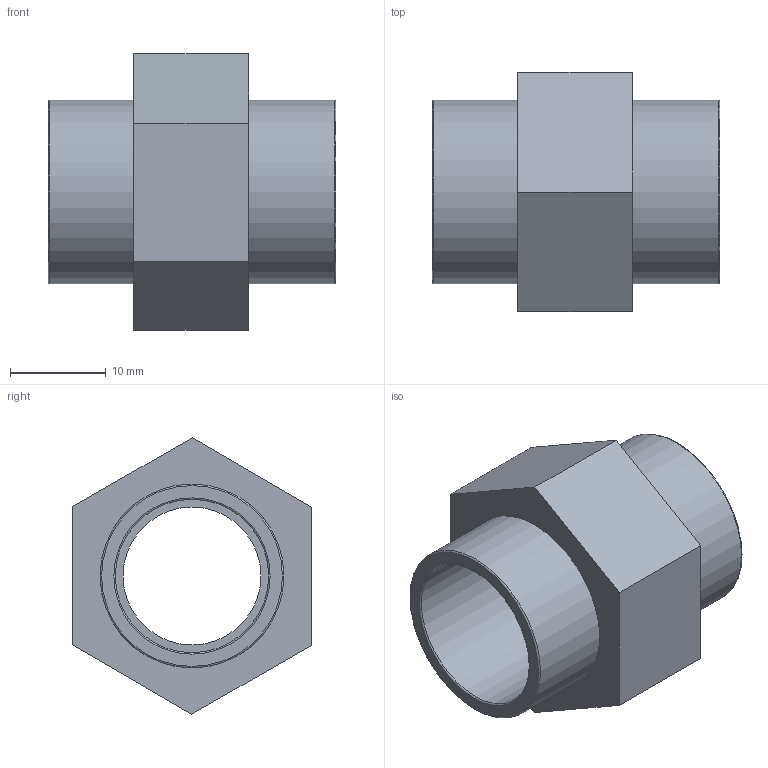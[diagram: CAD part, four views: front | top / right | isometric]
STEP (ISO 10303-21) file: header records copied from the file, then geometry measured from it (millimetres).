
FILE_DESCRIPTION(/* description */ ('PLASSON SOCKET ADAPTOR THR-CEM 16-3/8"'),/* implementation_level */ '2;1');
FILE_NAME(/* name */ 'C:\Dropbox\KIMPROJECTS-Inventor\99-16-3568-Processing\PVC Catalog 2017\050102\050102016003.ipt.stp',/* time_stamp */ '2017-12-07T15:51:50+02:00',/* author */ ('KIM'),/* organization */ (''),/* preprocessor_version */ 'ST-DEVELOPER v15.6',/* originating_system */ 'Autodesk Inventor 2015',/* authorisation */ '');
FILE_SCHEMA (('AUTOMOTIVE_DESIGN { 1 0 10303 214 3 1 1 }'));
Length unit declared in the file: millimetre
Products named in the file (1): 050102016003
Bounding box: 30 x 25.04 x 28.87 mm (x, y, z)
Volume: 6120.1 mm3; surface area: 4316.8 mm2
Topology: 1 solids, 1 shells, 21 faces, 41 edges, 26 vertices
Faces by surface type: plane 12, cylinder 5, torus 4
Full cylindrical faces by diameter (mm): 14.4 x1, 14.95 x1, 16 x1, 19.2 x2
Entity records: 520 total; most frequent: DIRECTION 90, CARTESIAN_POINT 80, ORIENTED_EDGE 64, EDGE_LOOP 36, AXIS2_PLACEMENT_3D 36, EDGE_CURVE 32, VERTEX_POINT 26, FACE_OUTER_BOUND 21
